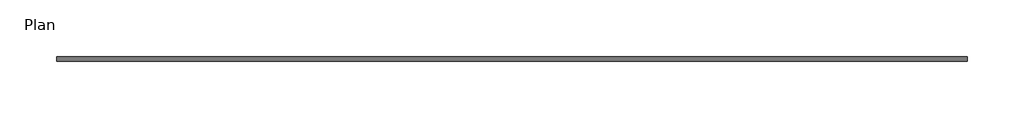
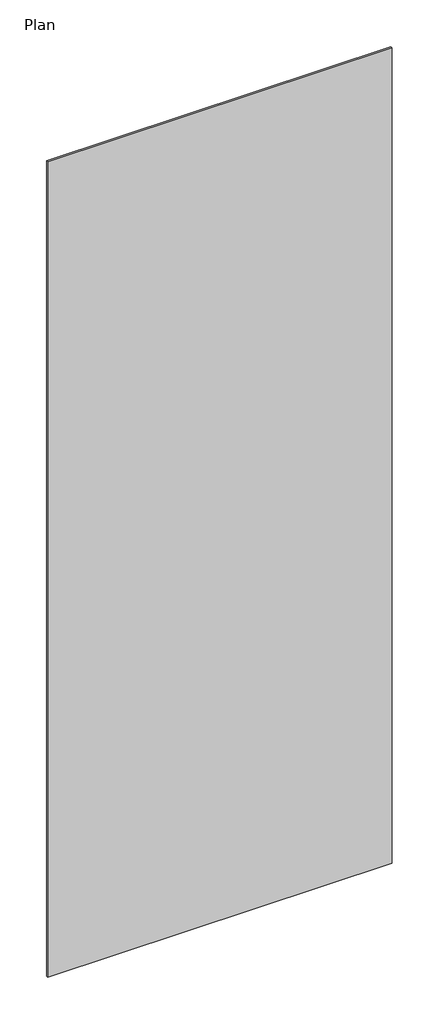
# One storey: 1 proxy.
"""IFC4 building model written with IfcOpenShell, lengths in millimetres."""

from ifc_helpers import new_model, si_unit, origin, place, context, project, spatial, transform, mapped, element, save
from components import generic_models_45147860

model = new_model("IFC4")

# Units and contexts
model_context = context("Model", 3, world=origin())
ifc_project = project(units=[si_unit("LENGTHUNIT", "METRE", prefix="MILLI")], contexts=[model_context])

# Site, building, storey
site = spatial("IfcSite", under=ifc_project)
building = spatial("IfcBuilding", under=site)
storey = spatial("IfcBuildingStorey", under=building, Name="Plan", Elevation=0.0)

# Proxy
placement = place(None, origin())
generic_models_shape = generic_models_45147860(model_context)
element("IfcBuildingElementProxy", 1, Name="AQUAPANEL showcase solid : AQUAPANEL showcase solid", ObjectType="AQUAPANEL showcase solid : AQUAPANEL showcase solid", at=placement, inside=storey, context=model_context, shape_type="MappedRepresentation", body=[
    mapped(generic_models_shape, transform((0.0, 0.0, 0.0), x_axis=(1.0, 0.0, 0.0), y_axis=(0.0, 1.0, 0.0), z_axis=(0.0, 0.0, 1.0))),
])

save(model, "model.ifc")
